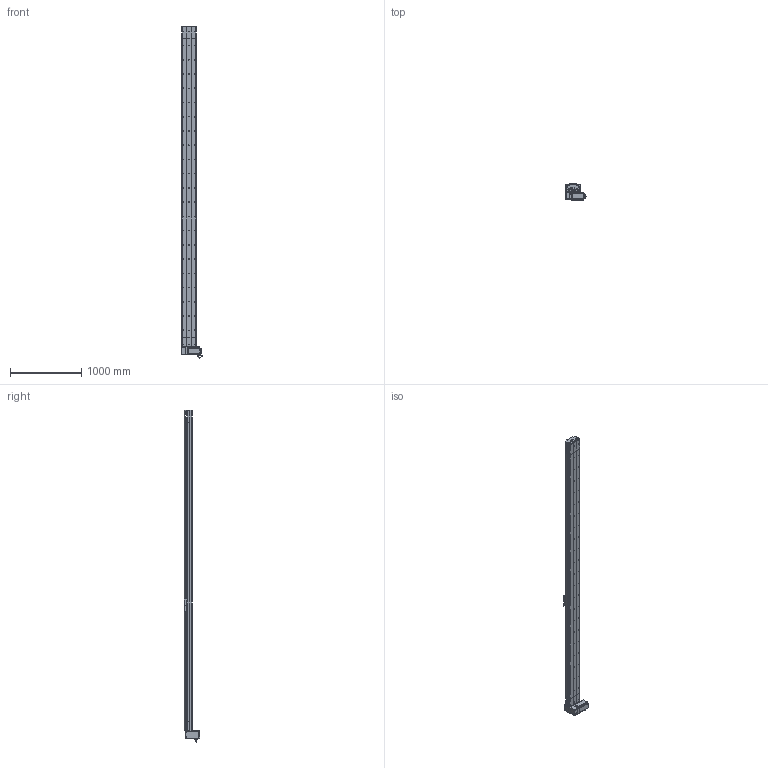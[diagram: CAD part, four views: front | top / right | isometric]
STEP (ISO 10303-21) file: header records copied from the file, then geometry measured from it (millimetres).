
FILE_DESCRIPTION (( 'STEP AP214' ), '1' );
FILE_NAME ('D20 TBH RU S4200.STEP', '2010-07-01T09:20:48', ( 'Conseil Régional Haute-Normandie' ), ( 'Conseil Régional Haute-Normandie' ), 'SwSTEP 2.0', 'SolidWorks 2010', '' );
FILE_SCHEMA (( 'AUTOMOTIVE_DESIGN' ));
Length unit declared in the file: millimetre
Products named in the file (40): couvercle tail D20_Default; corpl tail D20_Default; vis M5 L5_Default; vis M5 L25_Default; tete d''axe poulie D20B; vis M5 L8 90°_Default; poulie tail D20_Default; plaque de  bout tail D20_Default; Couroie tail D20_Default; vis M5 L70_Default; cache D20_Default; couroie_Default; Course B L4200_Default; corp D20 S4200_Default; couvercle D20 S4200_Default; rail + couroie  D20 S4200; Chariot D20B; cache arbre D20_Default; poulie head D20_Default; couvercle head D20_Default; rail head D20; corpl head D20_Default; head RU_Default; plaque de  bout head D20B RU_Default; rail tail D20; Conecteur2_Default; codeur 110BLDC170A-630x; corps 110BLDC170A-630x; avant 110BLDC170A-630x; vis M8 L12_Default; clavette; Conecteur_Default; vis M5 L12_Default; guide D20B; tail D20_Default; chariot D20B_Default; D20 TBH RU S4200; Plaque racord D20LH_Default; Renvoi RU D20_Default; Moteur motionking 110BLDC170A-640x
Assembly tree (71 placements, depth 4):
  D20 TBH RU S4200
    Course B L4200_Default
      corp D20 S4200_Default
      couvercle D20 S4200_Default
      rail + couroie  D20 S4200
    head RU_Default
      vis M5 L70_Default  x4
      vis M5 L5_Default  x4
      vis M5 L12_Default  x10
      poulie head D20_Default
      vis M8 L12_Default  x4
      cache D20_Default  x2
      couroie_Default
      Renvoi RU D20_Default
      rail head D20
      couvercle head D20_Default
      plaque de  bout head D20B RU_Default
      corpl head D20_Default
      Plaque racord D20LH_Default
      cache arbre D20_Default
      vis M5 L25_Default  x2
      Moteur motionking 110BLDC170A-640x
        Conecteur_Default
        Conecteur2_Default
        avant 110BLDC170A-630x
        clavette
        corps 110BLDC170A-630x
        codeur 110BLDC170A-630x
    chariot D20B_Default
      Chariot D20B
      guide D20B  x2
      vis M5 L12_Default  x4
    tail D20_Default
      vis M5 L12_Default  x4
      vis M5 L8 90°_Default  x2
      plaque de  bout tail D20_Default
      Couroie tail D20_Default
      poulie tail D20_Default
      couvercle tail D20_Default
      rail tail D20
      vis M5 L25_Default  x2
      tete d''axe poulie D20B
      corpl tail D20_Default
Bounding box: 304.2 x 223.2 x 4665 mm (x, y, z)
Volume: 35275321.6 mm3; surface area: 8836949.1 mm2
Topology: 95 solids, 95 shells, 2964 faces, 7740 edges, 5011 vertices
Faces by surface type: plane 1659, cylinder 981, bspline 136, cone 99, torus 89
Entity records: 98273 total; most frequent: CARTESIAN_POINT 32453, ORIENTED_EDGE 12136, DIRECTION 11325, EDGE_CURVE 6068, VERTEX_POINT 3997, AXIS2_PLACEMENT_3D 3789, LINE 3747, VECTOR 3747
